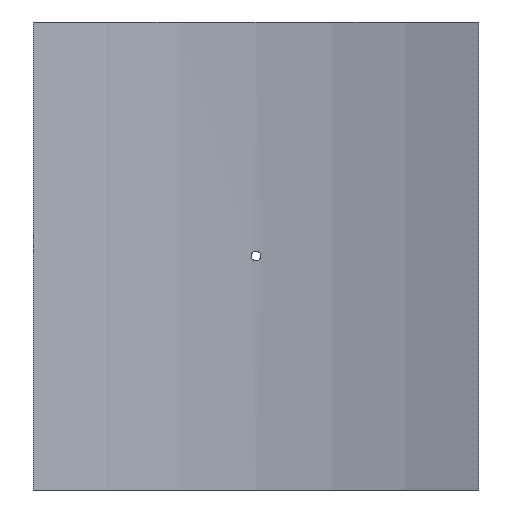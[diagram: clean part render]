
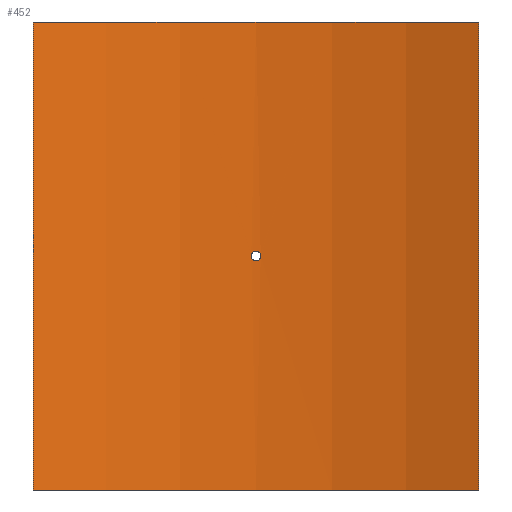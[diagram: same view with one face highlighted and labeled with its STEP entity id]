
A CAD part, front view. The second image highlights one B-rep face of the part: STEP entity #452.
In plain terms, the highlighted cylindrical face has radius 600 mm (diameter 1200 mm), a partial arc.
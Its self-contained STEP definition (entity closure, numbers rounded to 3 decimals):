
#19=B_SPLINE_CURVE_WITH_KNOTS('',3,(#788,#789,#790,#791,#792,#793,#794,
#795,#796,#797,#798,#799,#800,#801,#802,#803,#804,#805,#806,#807,#808,#809,
#810,#811,#812,#813,#814,#815,#816,#817,#818,#819,#820,#821),
 .UNSPECIFIED.,.T.,.F.,(4,2,2,2,2,2,2,2,2,2,2,2,2,2,2,2,4),(0.,0.181,
0.362,0.542,0.723,0.904,
1.085,1.266,1.446,1.627,1.808,
1.989,2.17,2.351,2.531,2.712,
2.893),.UNSPECIFIED.);
#43=LINE('',#1065,#62);
#44=LINE('',#1068,#63);
#62=VECTOR('',#661,10.);
#63=VECTOR('',#664,10.);
#76=CYLINDRICAL_SURFACE('',#530,600.);
#88=FACE_BOUND('',#167,.T.);
#127=FACE_OUTER_BOUND('',#166,.T.);
#166=EDGE_LOOP('',(#405,#406,#407,#408));
#167=EDGE_LOOP('',(#409));
#201=CIRCLE('',#529,600.);
#202=CIRCLE('',#531,600.);
#219=VERTEX_POINT('',#786);
#242=VERTEX_POINT('',#1058);
#243=VERTEX_POINT('',#1060);
#244=VERTEX_POINT('',#1064);
#245=VERTEX_POINT('',#1066);
#267=EDGE_CURVE('',#219,#219,#19,.T.);
#299=EDGE_CURVE('',#242,#243,#201,.T.);
#301=EDGE_CURVE('',#244,#242,#43,.T.);
#302=EDGE_CURVE('',#245,#244,#202,.T.);
#303=EDGE_CURVE('',#245,#243,#44,.T.);
#405=ORIENTED_EDGE('',*,*,#301,.F.);
#406=ORIENTED_EDGE('',*,*,#302,.F.);
#407=ORIENTED_EDGE('',*,*,#303,.T.);
#408=ORIENTED_EDGE('',*,*,#299,.F.);
#409=ORIENTED_EDGE('',*,*,#267,.T.);
#452=ADVANCED_FACE('',(#127,#88),#76,.F.);
#529=AXIS2_PLACEMENT_3D('',#1061,#656,#657);
#530=AXIS2_PLACEMENT_3D('',#1063,#659,#660);
#531=AXIS2_PLACEMENT_3D('',#1067,#662,#663);
#656=DIRECTION('center_axis',(0.,0.,1.));
#657=DIRECTION('ref_axis',(0.373,0.928,0.));
#659=DIRECTION('center_axis',(0.,0.,1.));
#660=DIRECTION('ref_axis',(0.373,0.928,0.));
#661=DIRECTION('',(0.,0.,-1.));
#662=DIRECTION('center_axis',(0.,0.,-1.));
#663=DIRECTION('ref_axis',(0.373,0.928,0.));
#664=DIRECTION('',(0.,0.,-1.));
#786=CARTESIAN_POINT('',(4.8,599.981,0.));
#788=CARTESIAN_POINT('Ctrl Pts',(4.8,599.981,0.));
#789=CARTESIAN_POINT('Ctrl Pts',(4.8,599.981,-0.603));
#790=CARTESIAN_POINT('Ctrl Pts',(4.68,599.982,-1.246));
#791=CARTESIAN_POINT('Ctrl Pts',(4.19,599.985,-2.428));
#792=CARTESIAN_POINT('Ctrl Pts',(3.82,599.988,-2.968));
#793=CARTESIAN_POINT('Ctrl Pts',(2.968,599.993,-3.82));
#794=CARTESIAN_POINT('Ctrl Pts',(2.428,599.995,-4.19));
#795=CARTESIAN_POINT('Ctrl Pts',(1.246,599.999,-4.68));
#796=CARTESIAN_POINT('Ctrl Pts',(0.603,600.,-4.8));
#797=CARTESIAN_POINT('Ctrl Pts',(-0.603,600.,-4.8));
#798=CARTESIAN_POINT('Ctrl Pts',(-1.246,599.999,-4.68));
#799=CARTESIAN_POINT('Ctrl Pts',(-2.428,599.995,-4.19));
#800=CARTESIAN_POINT('Ctrl Pts',(-2.968,599.993,-3.82));
#801=CARTESIAN_POINT('Ctrl Pts',(-3.82,599.988,-2.968));
#802=CARTESIAN_POINT('Ctrl Pts',(-4.19,599.985,-2.428));
#803=CARTESIAN_POINT('Ctrl Pts',(-4.68,599.982,-1.246));
#804=CARTESIAN_POINT('Ctrl Pts',(-4.8,599.981,-0.603));
#805=CARTESIAN_POINT('Ctrl Pts',(-4.8,599.981,0.603));
#806=CARTESIAN_POINT('Ctrl Pts',(-4.68,599.982,1.246));
#807=CARTESIAN_POINT('Ctrl Pts',(-4.19,599.985,2.428));
#808=CARTESIAN_POINT('Ctrl Pts',(-3.82,599.988,2.968));
#809=CARTESIAN_POINT('Ctrl Pts',(-2.968,599.993,3.82));
#810=CARTESIAN_POINT('Ctrl Pts',(-2.428,599.995,4.19));
#811=CARTESIAN_POINT('Ctrl Pts',(-1.246,599.999,4.68));
#812=CARTESIAN_POINT('Ctrl Pts',(-0.603,600.,4.8));
#813=CARTESIAN_POINT('Ctrl Pts',(0.603,600.,4.8));
#814=CARTESIAN_POINT('Ctrl Pts',(1.246,599.999,4.68));
#815=CARTESIAN_POINT('Ctrl Pts',(2.428,599.995,4.19));
#816=CARTESIAN_POINT('Ctrl Pts',(2.968,599.993,3.82));
#817=CARTESIAN_POINT('Ctrl Pts',(3.82,599.988,2.968));
#818=CARTESIAN_POINT('Ctrl Pts',(4.19,599.985,2.428));
#819=CARTESIAN_POINT('Ctrl Pts',(4.68,599.982,1.246));
#820=CARTESIAN_POINT('Ctrl Pts',(4.8,599.981,0.603));
#821=CARTESIAN_POINT('Ctrl Pts',(4.8,599.981,0.));
#1058=CARTESIAN_POINT('',(223.5,556.819,-235.));
#1060=CARTESIAN_POINT('',(-223.5,556.819,-235.));
#1061=CARTESIAN_POINT('Origin',(0.,0.,
-235.));
#1063=CARTESIAN_POINT('Origin',(0.,0.,
0.));
#1064=CARTESIAN_POINT('',(223.5,556.819,235.));
#1065=CARTESIAN_POINT('',(223.5,556.819,0.));
#1066=CARTESIAN_POINT('',(-223.5,556.819,235.));
#1067=CARTESIAN_POINT('Origin',(0.,0.,
235.));
#1068=CARTESIAN_POINT('',(-223.5,556.819,0.));
